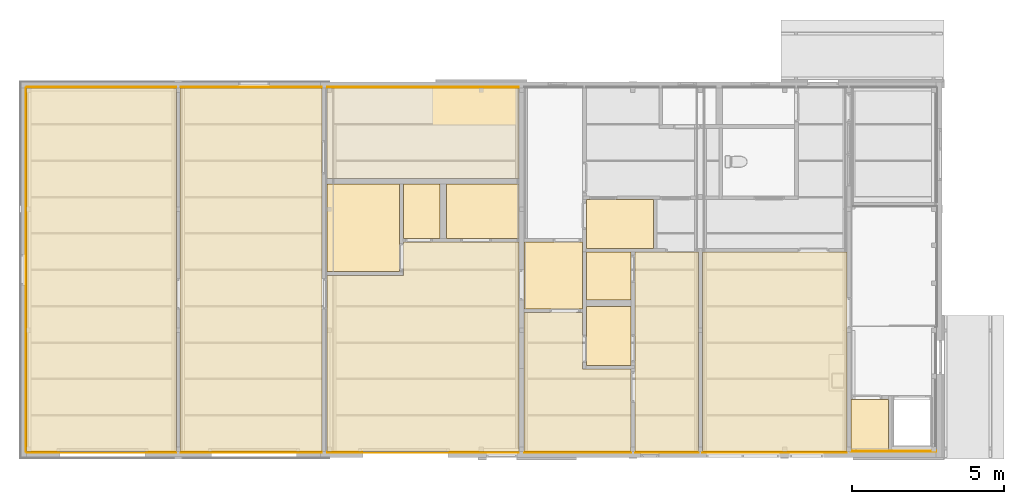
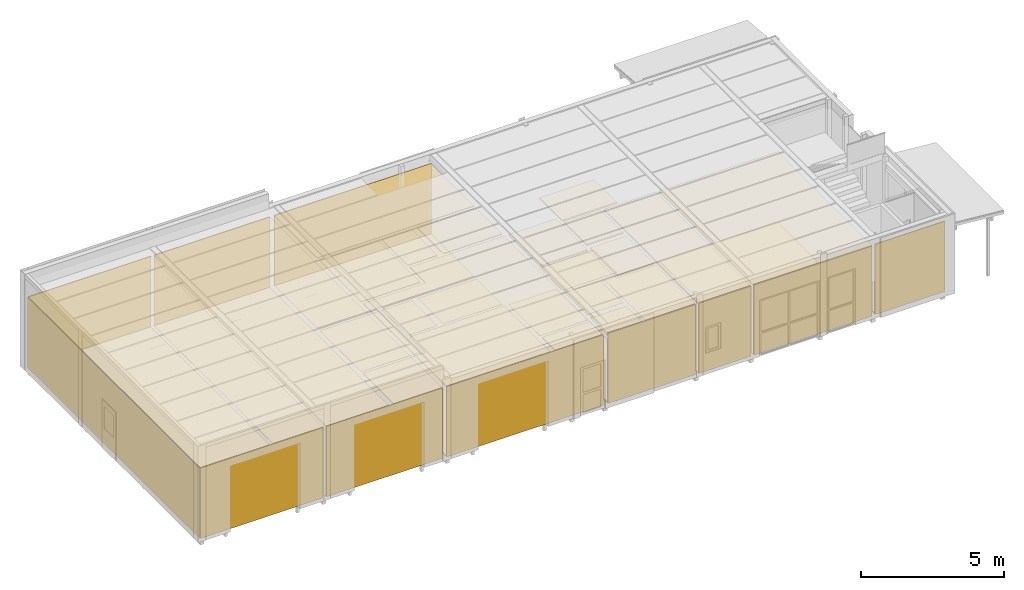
# One storey, part 39 of 45: 40 coverings.
"""IFC2X3 building model written with IfcOpenShell, lengths in millimetres."""

from ifc_helpers import new_model, entity, si_unit, converted_unit, frame, frame_2d, origin, origin_with_axes, place, context, subcontext, project, spatial, polyline, rectangle, outline, extrude, material, layer, layer_set, layer_usage, element, save


model = new_model("IFC2X3")

# Units and contexts
model_context = context("Model", 3, precision=1e-05, world=origin())
plan_context = context("Plan", 3, precision=1e-05, world=origin())
body_context = subcontext(model_context, "Body", "Model", "MODEL_VIEW")
ifc_project = project(units=[si_unit("LENGTHUNIT", "METRE", prefix="MILLI"), converted_unit("PLANEANGLEUNIT", "DEGREE", entity("IfcPlaneAngleMeasure", 0.0174532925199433), si_unit("PLANEANGLEUNIT", "RADIAN"), dimensions=[0, 0, 0, 0, 0, 0, 0]), si_unit("AREAUNIT", "SQUARE_METRE"), si_unit("VOLUMEUNIT", "CUBIC_METRE")], contexts=[model_context, plan_context])

# Building, storey, space
building_placement = place(None, origin())
building = spatial("IfcBuilding", under=ifc_project, at=building_placement, Name="HEKF Administrasjonbygg", CompositionType="ELEMENT")
storey_placement = place(building_placement, frame((0.0, 0.0, 6500.0), z_axis=(0.0, 0.0, 1.0), x_axis=(1.0, 0.0, 0.0)))
storey = spatial("IfcBuildingStorey", under=building, at=storey_placement, Name="Plan 1", CompositionType="ELEMENT", Elevation=6500.0)
space_1_placement = place(storey_placement, frame((18463.0, -6989.000000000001, 0.0), z_axis=(0.0, 0.0, 1.0), x_axis=(1.0, 0.0, 0.0)))
space_1 = spatial("IfcSpace", under=storey, at=space_1_placement, Name="114", CompositionType="ELEMENT", InteriorOrExteriorSpace="INTERNAL")

# Coverings
ifc_material_1 = material(Name="våtromsbelegg m oppkant")
ifc_layer_1 = layer(ifc_material_1, 3.0)
ifc_layer_set_1 = layer_set([ifc_layer_1])
ifc_layer_usage_1 = layer_usage(ifc_layer_set_1, "AXIS3", "POSITIVE", 0.0)
covering_1_placement = place(space_1_placement, origin_with_axes())
element("IfcCovering", 1, at=covering_1_placement, inside=space_1, material=ifc_layer_usage_1, PredefinedType="FLOORING", context=body_context, shape_type="SweptSolid", body=[
    extrude(rectangle(XDim=1474.0, YDim=1572.000000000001, at=frame_2d((-736.9999999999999, -786.0000000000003), x_axis=(-0.9999999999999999, 0.0))), frame((1474.0, 1572.000000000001, 0.0), z_axis=(0.0, 0.0, 1.0), x_axis=(1.0, 0.0, 0.0)), (0.0, 0.0, 1.0), 3.0),
])
ifc_material_2 = material(Name="støvbinding")
ifc_layer_2 = layer(ifc_material_2, 30.0)
ifc_material_3 = material(Name="systemhimling")
ifc_layer_3 = layer(ifc_material_3, 30.0)
ifc_layer_set_2 = layer_set([ifc_layer_2, ifc_layer_3])
ifc_layer_usage_2 = layer_usage(ifc_layer_set_2, "AXIS3", "POSITIVE", 0.0)
covering_2_placement = place(space_1_placement, frame((737.0, 786.0000000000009, 3000.0), z_axis=(0.0, 0.0, -1.0), x_axis=(1.0, 0.0, 0.0)))
element("IfcCovering", 2, at=covering_2_placement, inside=space_1, material=ifc_layer_usage_2, PredefinedType="CEILING", context=body_context, shape_type="SweptSolid", body=[
    extrude(rectangle(XDim=1474.0, YDim=1572.000000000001, at=frame_2d((736.9999999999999, 786.0000000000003), x_axis=(0.9999999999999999, 0.0))), frame((-737.0, -786.0, 0.0), z_axis=(0.0, 0.0, 1.0), x_axis=(1.0, 0.0, 0.0)), (0.0, 0.0, 1.0), 60.0),
])

# Space
space_2_placement = place(storey_placement, frame((18463.0, -5290.855219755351, 0.0), z_axis=(0.0, 0.0, 1.0), x_axis=(1.0, 0.0, 0.0)))
space_2 = spatial("IfcSpace", under=storey, at=space_2_placement, Name="111", CompositionType="ELEMENT", InteriorOrExteriorSpace="INTERNAL")

# Coverings
ifc_material_4 = material(Name="våtromsbelegg m oppkant")
ifc_layer_4 = layer(ifc_material_4, 3.0)
ifc_layer_set_3 = layer_set([ifc_layer_4])
ifc_layer_usage_3 = layer_usage(ifc_layer_set_3, "AXIS3", "POSITIVE", 0.0)
covering_3_placement = place(space_2_placement, origin_with_axes())
element("IfcCovering", 3, at=covering_3_placement, inside=space_2, material=ifc_layer_usage_3, PredefinedType="FLOORING", context=body_context, shape_type="SweptSolid", body=[
    extrude(rectangle(XDim=2207.205884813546, YDim=1603.855219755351, at=frame_2d((-1103.602942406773, -801.9276098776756), x_axis=(-1.0, 0.0))), frame((2207.205884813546, 1603.855219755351, 0.0), z_axis=(0.0, 0.0, 1.0), x_axis=(1.0, 0.0, 0.0)), (0.0, 0.0, 1.0), 3.0),
])
ifc_material_5 = material(Name="støvbinding")
ifc_layer_5 = layer(ifc_material_5, 30.0)
ifc_material_6 = material(Name="systemhimling")
ifc_layer_6 = layer(ifc_material_6, 30.0)
ifc_layer_set_4 = layer_set([ifc_layer_5, ifc_layer_6])
ifc_layer_usage_4 = layer_usage(ifc_layer_set_4, "AXIS3", "POSITIVE", 0.0)
covering_4_placement = place(space_2_placement, frame((1103.602942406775, 801.9276098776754, 3000.0), z_axis=(0.0, 0.0, -1.0), x_axis=(1.0, 0.0, 0.0)))
element("IfcCovering", 4, at=covering_4_placement, inside=space_2, material=ifc_layer_usage_4, PredefinedType="CEILING", context=body_context, shape_type="SweptSolid", body=[
    extrude(rectangle(XDim=2207.205884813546, YDim=1603.855219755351, at=frame_2d((1103.602942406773, 801.9276098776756), x_axis=(1.0, 0.0))), frame((-1103.602942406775, -801.9276098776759, 0.0), z_axis=(0.0, 0.0, 1.0), x_axis=(1.0, 0.0, 0.0)), (0.0, 0.0, 1.0), 60.0),
])

# Space
space_3_placement = place(storey_placement, frame((18463.0, -9150.00000000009, 0.0), z_axis=(0.0, 0.0, 1.0), x_axis=(1.0, 0.0, 0.0)))
space_3 = spatial("IfcSpace", under=storey, at=space_3_placement, Name="115", CompositionType="ELEMENT", InteriorOrExteriorSpace="INTERNAL")

# Coverings
ifc_material_7 = material(Name="våtromsbelegg m oppkant")
ifc_layer_7 = layer(ifc_material_7, 3.0)
ifc_layer_set_5 = layer_set([ifc_layer_7])
ifc_layer_usage_5 = layer_usage(ifc_layer_set_5, "AXIS3", "POSITIVE", 0.0)
covering_5_placement = place(space_3_placement, origin_with_axes())
element("IfcCovering", 5, at=covering_5_placement, inside=space_3, material=ifc_layer_usage_5, PredefinedType="FLOORING", context=body_context, shape_type="SweptSolid", body=[
    extrude(rectangle(XDim=1474.0, YDim=1937.000000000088, at=frame_2d((-736.9999999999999, -968.500000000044), x_axis=(-0.9999999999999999, 0.0))), frame((1474.0, 1937.000000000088, 0.0), z_axis=(0.0, 0.0, 1.0), x_axis=(1.0, 0.0, 0.0)), (0.0, 0.0, 1.0), 3.0),
])
ifc_material_8 = material(Name="støvbinding")
ifc_layer_8 = layer(ifc_material_8, 30.0)
ifc_material_9 = material(Name="systemhimling")
ifc_layer_9 = layer(ifc_material_9, 30.0)
ifc_layer_set_6 = layer_set([ifc_layer_8, ifc_layer_9])
ifc_layer_usage_6 = layer_usage(ifc_layer_set_6, "AXIS3", "POSITIVE", 0.0)
covering_6_placement = place(space_3_placement, frame((737.0, 968.5000000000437, 3000.0), z_axis=(0.0, 0.0, -1.0), x_axis=(1.0, 0.0, 0.0)))
element("IfcCovering", 6, at=covering_6_placement, inside=space_3, material=ifc_layer_usage_6, PredefinedType="CEILING", context=body_context, shape_type="SweptSolid", body=[
    extrude(rectangle(XDim=1474.0, YDim=1937.000000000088, at=frame_2d((736.9999999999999, 968.500000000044), x_axis=(0.9999999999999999, 0.0))), frame((-737.0, -968.5000000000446, 0.0), z_axis=(0.0, 0.0, 1.0), x_axis=(1.0, 0.0, 0.0)), (0.0, 0.0, 1.0), 60.0),
])

# Space
space_4_placement = place(storey_placement, frame((20063.0, -12000.0, 0.0), z_axis=(0.0, 0.0, 1.0), x_axis=(1.0, 0.0, 0.0)))
space_4 = spatial("IfcSpace", under=storey, at=space_4_placement, Name="116", CompositionType="ELEMENT", InteriorOrExteriorSpace="INTERNAL")

# Coverings
ifc_material_10 = material(Name="Ubehandlet SW")
ifc_layer_10 = layer(ifc_material_10, 30.0)
ifc_layer_set_7 = layer_set([ifc_layer_10])
ifc_layer_usage_7 = layer_usage(ifc_layer_set_7, "AXIS3", "POSITIVE", 0.0)
covering_7_placement = place(space_4_placement, frame((2099.268403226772, 0.0, 0.0), z_axis=(0.0, 0.0, 1.0), x_axis=(-0.9999999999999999, 7.843219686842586e-15, 0.0)))
element("IfcCovering", 7, at=covering_7_placement, inside=space_4, material=ifc_layer_usage_7, PredefinedType="CLADDING", context=body_context, shape_type="SweptSolid", body=[
    extrude(rectangle(XDim=3000.0, YDim=2087.268403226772, at=frame_2d((-1043.634201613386, 1500.0), x_axis=(0.0, 1.0))), frame((2087.268403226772, 0.0, 3000.0), z_axis=(0.0, 1.0, 0.0), x_axis=(1.0, 0.0, 0.0)), (0.0, 0.0, 1.0), 30.0),
])
ifc_material_11 = material(Name="våtromsbelegg m oppkant")
ifc_layer_11 = layer(ifc_material_11, 3.0)
ifc_layer_set_8 = layer_set([ifc_layer_11])
ifc_layer_usage_8 = layer_usage(ifc_layer_set_8, "AXIS3", "POSITIVE", 0.0)
covering_8_placement = place(space_4_placement, origin_with_axes())
element("IfcCovering", 8, at=covering_8_placement, inside=space_4, material=ifc_layer_usage_8, PredefinedType="FLOORING", context=body_context, shape_type="SweptSolid", body=[
    extrude(rectangle(XDim=2099.268403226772, YDim=6583.000000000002, at=frame_2d((-1049.634201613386, -3291.500000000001), x_axis=(-1.0, 0.0))), frame((2099.268403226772, 6583.000000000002, 0.0), z_axis=(0.0, 0.0, 1.0), x_axis=(1.0, 0.0, 0.0)), (0.0, 0.0, 1.0), 3.0),
])
ifc_material_12 = material(Name="støvbinding")
ifc_layer_12 = layer(ifc_material_12, 30.0)
ifc_material_13 = material(Name="systemhimling")
ifc_layer_13 = layer(ifc_material_13, 30.0)
ifc_layer_set_9 = layer_set([ifc_layer_12, ifc_layer_13])
ifc_layer_usage_9 = layer_usage(ifc_layer_set_9, "AXIS3", "POSITIVE", 0.0)
covering_9_placement = place(space_4_placement, frame((1049.634201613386, 3291.500000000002, 3000.0), z_axis=(0.0, 0.0, -1.0), x_axis=(1.0, 0.0, 0.0)))
element("IfcCovering", 9, at=covering_9_placement, inside=space_4, material=ifc_layer_usage_9, PredefinedType="CEILING", context=body_context, shape_type="SweptSolid", body=[
    extrude(rectangle(XDim=2099.268403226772, YDim=6583.000000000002, at=frame_2d((1049.634201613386, 3291.500000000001), x_axis=(1.0, 0.0))), frame((-1049.634201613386, -3291.5, 0.0), z_axis=(0.0, 0.0, 1.0), x_axis=(1.0, 0.0, 0.0)), (0.0, 0.0, 1.0), 60.0),
])

# Space
space_5_placement = place(storey_placement, frame((16413.0, -12000.0, 0.0), z_axis=(0.0, 0.0, 1.0), x_axis=(1.0, 0.0, 0.0)))
space_5 = spatial("IfcSpace", under=storey, at=space_5_placement, Name="117", CompositionType="ELEMENT", InteriorOrExteriorSpace="INTERNAL")

# Coverings
ifc_material_14 = material(Name="Ubehandlet SW")
ifc_layer_14 = layer(ifc_material_14, 30.0)
ifc_layer_set_10 = layer_set([ifc_layer_14])
ifc_layer_usage_10 = layer_usage(ifc_layer_set_10, "AXIS3", "POSITIVE", 0.0)
covering_10_placement = place(space_5_placement, frame((3524.0, 0.0, 0.0), z_axis=(0.0, 0.0, 1.0), x_axis=(-1.0, 0.0, 0.0)))
element("IfcCovering", 10, at=covering_10_placement, inside=space_5, material=ifc_layer_usage_10, PredefinedType="CLADDING", context=body_context, shape_type="SweptSolid", body=[
    extrude(rectangle(XDim=3000.0, YDim=3524.0, at=frame_2d((-1762.0, 1500.0), x_axis=(0.0, 1.0))), frame((3524.0, 0.0, 3000.0), z_axis=(0.0, 1.0, 0.0), x_axis=(1.0, 0.0, 0.0)), (0.0, 0.0, 1.0), 30.0),
])
ifc_material_15 = material(Name="våtromsbelegg m oppkant")
ifc_layer_15 = layer(ifc_material_15, 30.0)
ifc_layer_set_11 = layer_set([ifc_layer_15])
ifc_layer_usage_11 = layer_usage(ifc_layer_set_11, "AXIS3", "POSITIVE", 0.0)
covering_11_placement = place(space_5_placement, origin_with_axes())
element("IfcCovering", 11, at=covering_11_placement, inside=space_5, material=ifc_layer_usage_11, PredefinedType="FLOORING", context=body_context, shape_type="SweptSolid", body=[
    extrude(outline(polyline([(1924.0, 4587.000000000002), (0.0, 4587.000000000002), (0.0, 0.0), (3524.0, 0.0), (3524.0, 2723.999999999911), (1924.0, 2723.999999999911), (1924.0, 4587.000000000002)])), origin_with_axes(), (0.0, 0.0, 1.0), 30.0),
])
ifc_material_16 = material(Name="støvbinding")
ifc_layer_16 = layer(ifc_material_16, 30.0)
ifc_material_17 = material(Name="systemhimling")
ifc_layer_17 = layer(ifc_material_17, 30.0)
ifc_layer_set_12 = layer_set([ifc_layer_16, ifc_layer_17])
ifc_layer_usage_12 = layer_usage(ifc_layer_set_12, "AXIS3", "POSITIVE", 0.0)
covering_12_placement = place(space_5_placement, frame((1816.0, 2436.999999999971, 3000.0), z_axis=(0.0, 0.0, -1.0), x_axis=(1.0, 0.0, 0.0)))
element("IfcCovering", 12, at=covering_12_placement, inside=space_5, material=ifc_layer_usage_12, PredefinedType="CEILING", context=body_context, shape_type="SweptSolid", body=[
    extrude(outline(polyline([(-1816.0, -2150.000000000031), (108.0, -2150.000000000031), (108.0, -286.99999999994), (1708.0, -286.99999999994), (1708.0, 2436.999999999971), (-1816.0, 2436.999999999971), (-1816.0, -2150.000000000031)])), origin_with_axes(), (0.0, 0.0, 1.0), 60.0),
])

# Space
space_6_placement = place(storey_placement, frame((16413.0, -7286.999999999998, 0.0), z_axis=(0.0, 0.0, 1.0), x_axis=(1.0, 0.0, 0.0)))
space_6 = spatial("IfcSpace", under=storey, at=space_6_placement, Name="113", CompositionType="ELEMENT", InteriorOrExteriorSpace="INTERNAL")

# Coverings
ifc_material_18 = material(Name="Våtromsbelegg")
ifc_layer_18 = layer(ifc_material_18, 3.0)
ifc_layer_set_13 = layer_set([ifc_layer_18])
ifc_layer_usage_13 = layer_usage(ifc_layer_set_13, "AXIS3", "POSITIVE", 0.0)
covering_13_placement = place(space_6_placement, origin_with_axes())
element("IfcCovering", 13, at=covering_13_placement, inside=space_6, material=ifc_layer_usage_13, PredefinedType="FLOORING", context=body_context, shape_type="SweptSolid", body=[
    extrude(rectangle(XDim=1924.0, YDim=2199.999999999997, at=frame_2d((-962.0, -1099.999999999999), x_axis=(-1.0, 0.0))), frame((1924.0, 2199.999999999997, 0.0), z_axis=(0.0, 0.0, 1.0), x_axis=(1.0, 0.0, 0.0)), (0.0, 0.0, 1.0), 3.0),
])
ifc_material_19 = material(Name="Støvbinding")
ifc_layer_19 = layer(ifc_material_19, 30.0)
ifc_material_20 = material(Name="Systemhimling")
ifc_layer_20 = layer(ifc_material_20, 30.0)
ifc_layer_set_14 = layer_set([ifc_layer_19, ifc_layer_20])
ifc_layer_usage_14 = layer_usage(ifc_layer_set_14, "AXIS3", "POSITIVE", 0.0)
covering_14_placement = place(space_6_placement, frame((962.0, 1099.999999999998, 3000.0), z_axis=(0.0, 0.0, -1.0), x_axis=(1.0, 0.0, 0.0)))
element("IfcCovering", 14, at=covering_14_placement, inside=space_6, material=ifc_layer_usage_14, PredefinedType="CEILING", context=body_context, shape_type="SweptSolid", body=[
    extrude(rectangle(XDim=1924.0, YDim=2199.999999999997, at=frame_2d((962.0, 1099.999999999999), x_axis=(1.0, 0.0))), frame((-962.0, -1099.999999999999, 0.0), z_axis=(0.0, 0.0, 1.0), x_axis=(1.0, 0.0, 0.0)), (0.0, 0.0, 1.0), 60.0),
])

# Space
space_7_placement = place(storey_placement, frame((9913.0, -2987.0, 0.0), z_axis=(0.0, 0.0, 1.0), x_axis=(1.0, 0.0, 0.0)))
space_7 = spatial("IfcSpace", under=storey, at=space_7_placement, Name="120", CompositionType="ELEMENT", InteriorOrExteriorSpace="INTERNAL")

# Coverings
ifc_material_21 = material(Name="Ubehandlet SW")
ifc_layer_21 = layer(ifc_material_21, 30.0)
ifc_layer_set_15 = layer_set([ifc_layer_21])
ifc_layer_usage_15 = layer_usage(ifc_layer_set_15, "AXIS3", "POSITIVE", 0.0)
covering_15_placement = place(space_7_placement, frame((0.0, 2987.000000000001, 0.0), z_axis=(0.0, 0.0, 1.0), x_axis=(1.0, 0.0, 0.0)))
element("IfcCovering", 15, at=covering_15_placement, inside=space_7, material=ifc_layer_usage_15, PredefinedType="CLADDING", context=body_context, shape_type="SweptSolid", body=[
    extrude(rectangle(XDim=3000.0, YDim=6324.0, at=frame_2d((-3162.0, 1500.0), x_axis=(0.0, 1.0))), frame((6324.0, 0.0, 3000.0), z_axis=(0.0, 1.0, 0.0), x_axis=(1.0, 0.0, 0.0)), (0.0, 0.0, 1.0), 30.0),
])
ifc_material_22 = material(Name="Golvmaling")
ifc_layer_22 = layer(ifc_material_22, 3.0)
ifc_layer_set_16 = layer_set([ifc_layer_22])
ifc_layer_usage_16 = layer_usage(ifc_layer_set_16, "AXIS3", "POSITIVE", 0.0)
covering_16_placement = place(space_7_placement, origin_with_axes())
element("IfcCovering", 16, at=covering_16_placement, inside=space_7, material=ifc_layer_usage_16, PredefinedType="FLOORING", context=body_context, shape_type="SweptSolid", body=[
    extrude(rectangle(XDim=6324.0, YDim=2987.000000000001, at=frame_2d((-3162.0, -1493.5), x_axis=(-1.0, 0.0))), frame((6324.0, 2987.000000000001, 0.0), z_axis=(0.0, 0.0, 1.0), x_axis=(1.0, 0.0, 0.0)), (0.0, 0.0, 1.0), 3.0),
])
ifc_material_23 = material(Name="Støvbinding x2")
ifc_layer_23 = layer(ifc_material_23, 30.0)
ifc_layer_set_17 = layer_set([ifc_layer_23])
ifc_layer_usage_17 = layer_usage(ifc_layer_set_17, "AXIS3", "POSITIVE", 0.0)
covering_17_placement = place(space_7_placement, frame((3162.0, 1493.5, 3000.0), z_axis=(0.0, 0.0, -1.0), x_axis=(1.0, 0.0, 0.0)))
element("IfcCovering", 17, at=covering_17_placement, inside=space_7, material=ifc_layer_usage_17, PredefinedType="CEILING", context=body_context, shape_type="SweptSolid", body=[
    extrude(rectangle(XDim=6324.0, YDim=2987.0, at=frame_2d((3162.0, 1493.5), x_axis=(1.0, 0.0))), frame((-3162.0, -1493.5, 0.0), z_axis=(0.0, 0.0, 1.0), x_axis=(1.0, 0.0, 0.0)), (0.0, 0.0, 1.0), 30.0),
])

# Space
space_8_placement = place(storey_placement, frame((13856.83620340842, -4961.0, 0.0), z_axis=(0.0, 0.0, 1.0), x_axis=(1.0, 0.0, 0.0)))
space_8 = spatial("IfcSpace", under=storey, at=space_8_placement, Name="119", CompositionType="ELEMENT", InteriorOrExteriorSpace="INTERNAL")

# Coverings
ifc_material_24 = material(Name="Våtromsbelegg")
ifc_layer_24 = layer(ifc_material_24, 3.0)
ifc_layer_set_18 = layer_set([ifc_layer_24])
ifc_layer_usage_18 = layer_usage(ifc_layer_set_18, "AXIS3", "POSITIVE", 0.0)
covering_18_placement = place(space_8_placement, origin_with_axes())
element("IfcCovering", 18, at=covering_18_placement, inside=space_8, material=ifc_layer_usage_18, PredefinedType="FLOORING", context=body_context, shape_type="SweptSolid", body=[
    extrude(rectangle(XDim=2380.163796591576, YDim=1798.0, at=frame_2d((-1190.081898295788, -899.0), x_axis=(-1.0, 0.0))), frame((2380.163796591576, 1798.0, 0.0), z_axis=(0.0, 0.0, 1.0), x_axis=(1.0, 0.0, 0.0)), (0.0, 0.0, 1.0), 3.0),
])
ifc_material_25 = material(Name="Støvbinding x2")
ifc_layer_25 = layer(ifc_material_25, 30.0)
ifc_layer_set_19 = layer_set([ifc_layer_25])
ifc_layer_usage_19 = layer_usage(ifc_layer_set_19, "AXIS3", "POSITIVE", 0.0)
covering_19_placement = place(space_8_placement, frame((1190.08189829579, 899.0, 3000.0), z_axis=(0.0, 0.0, -1.0), x_axis=(1.0, 0.0, 0.0)))
element("IfcCovering", 19, at=covering_19_placement, inside=space_8, material=ifc_layer_usage_19, PredefinedType="CEILING", context=body_context, shape_type="SweptSolid", body=[
    extrude(rectangle(XDim=2380.163796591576, YDim=1798.0, at=frame_2d((1190.081898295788, 899.0), x_axis=(1.0, 0.0))), frame((-1190.08189829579, -899.0, 0.0), z_axis=(0.0, 0.0, 1.0), x_axis=(1.0, 0.0, 0.0)), (0.0, 0.0, 1.0), 30.0),
])

# Space
space_9_placement = place(storey_placement, frame((12427.88604435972, -4960.999999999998, 0.0), z_axis=(0.0, 0.0, 1.0), x_axis=(1.0, 0.0, 0.0)))
space_9 = spatial("IfcSpace", under=storey, at=space_9_placement, Name="121", CompositionType="ELEMENT", InteriorOrExteriorSpace="INTERNAL")

# Coverings
ifc_material_26 = material(Name="Våtromsbelegg")
ifc_layer_26 = layer(ifc_material_26, 3.0)
ifc_layer_set_20 = layer_set([ifc_layer_26])
ifc_layer_usage_20 = layer_usage(ifc_layer_set_20, "AXIS3", "POSITIVE", 0.0)
covering_20_placement = place(space_9_placement, origin_with_axes())
element("IfcCovering", 20, at=covering_20_placement, inside=space_9, material=ifc_layer_usage_20, PredefinedType="FLOORING", context=body_context, shape_type="SweptSolid", body=[
    extrude(rectangle(XDim=1204.950159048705, YDim=1797.999999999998, at=frame_2d((-602.4750795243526, -898.9999999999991), x_axis=(-1.0, 0.0))), frame((1204.950159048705, 1797.999999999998, 0.0), z_axis=(0.0, 0.0, 1.0), x_axis=(1.0, 0.0, 0.0)), (0.0, 0.0, 1.0), 3.0),
])
ifc_material_27 = material(Name="Støvbinding x2")
ifc_layer_27 = layer(ifc_material_27, 30.0)
ifc_layer_set_21 = layer_set([ifc_layer_27])
ifc_layer_usage_21 = layer_usage(ifc_layer_set_21, "AXIS3", "POSITIVE", 0.0)
covering_21_placement = place(space_9_placement, frame((602.4750795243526, 898.9999999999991, 3000.0), z_axis=(0.0, 0.0, -1.0), x_axis=(1.0, 0.0, 0.0)))
element("IfcCovering", 21, at=covering_21_placement, inside=space_9, material=ifc_layer_usage_21, PredefinedType="CEILING", context=body_context, shape_type="SweptSolid", body=[
    extrude(rectangle(XDim=1204.950159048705, YDim=1797.999999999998, at=frame_2d((602.4750795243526, 898.9999999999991), x_axis=(1.0, 0.0))), frame((-602.4750795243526, -898.9999999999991, 0.0), z_axis=(0.0, 0.0, 1.0), x_axis=(1.0, 0.0, 0.0)), (0.0, 0.0, 1.0), 30.0),
])

# Space
space_10_placement = place(storey_placement, frame((9913.0, -6060.999999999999, 0.0), z_axis=(0.0, 0.0, 1.0), x_axis=(1.0, 0.0, 0.0)))
space_10 = spatial("IfcSpace", under=storey, at=space_10_placement, Name="122", CompositionType="ELEMENT", InteriorOrExteriorSpace="INTERNAL")

# Coverings
ifc_material_28 = material(Name="Golvmaling")
ifc_layer_28 = layer(ifc_material_28, 3.0)
ifc_layer_set_22 = layer_set([ifc_layer_28])
ifc_layer_usage_22 = layer_usage(ifc_layer_set_22, "AXIS3", "POSITIVE", 0.0)
covering_22_placement = place(space_10_placement, origin_with_axes())
element("IfcCovering", 22, at=covering_22_placement, inside=space_10, material=ifc_layer_usage_22, PredefinedType="FLOORING", context=body_context, shape_type="SweptSolid", body=[
    extrude(rectangle(XDim=2388.886044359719, YDim=2897.999999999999, at=frame_2d((-1194.443022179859, -1449.0), x_axis=(-1.0, 0.0))), frame((2388.886044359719, 2897.999999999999, 0.0), z_axis=(0.0, 0.0, 1.0), x_axis=(1.0, 0.0, 0.0)), (0.0, 0.0, 1.0), 3.0),
])
ifc_material_29 = material(Name="Støvbinding x2")
ifc_layer_29 = layer(ifc_material_29, 30.0)
ifc_layer_set_23 = layer_set([ifc_layer_29])
ifc_layer_usage_23 = layer_usage(ifc_layer_set_23, "AXIS3", "POSITIVE", 0.0)
covering_23_placement = place(space_10_placement, frame((1194.443022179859, 1448.999999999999, 3000.0), z_axis=(0.0, 0.0, -1.0), x_axis=(1.0, 0.0, 0.0)))
element("IfcCovering", 23, at=covering_23_placement, inside=space_10, material=ifc_layer_usage_23, PredefinedType="CEILING", context=body_context, shape_type="SweptSolid", body=[
    extrude(rectangle(XDim=2388.886044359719, YDim=2897.999999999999, at=frame_2d((1194.443022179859, 1449.0), x_axis=(1.0, 0.0))), frame((-1194.443022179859, -1449.0, 0.0), z_axis=(0.0, 0.0, 1.0), x_axis=(1.0, 0.0, 0.0)), (0.0, 0.0, 1.0), 30.0),
])

# Space
space_11_placement = place(storey_placement, frame((5063.0, -12000.0, 0.0), z_axis=(0.0, 0.0, 1.0), x_axis=(1.0, 0.0, 0.0)))
space_11 = spatial("IfcSpace", under=storey, at=space_11_placement, Name="123", CompositionType="ELEMENT", InteriorOrExteriorSpace="INTERNAL")

# Coverings
ifc_material_30 = material(Name="Ubehandlet SW")
ifc_layer_30 = layer(ifc_material_30, 30.0)
ifc_layer_set_24 = layer_set([ifc_layer_30])
ifc_layer_usage_24 = layer_usage(ifc_layer_set_24, "AXIS3", "POSITIVE", 0.0)
covering_24_placement = place(space_11_placement, frame((4674.0, 0.0, 0.0), z_axis=(0.0, 0.0, 1.0), x_axis=(-1.0, 0.0, 0.0)))
element("IfcCovering", 24, at=covering_24_placement, inside=space_11, material=ifc_layer_usage_24, PredefinedType="CLADDING", context=body_context, shape_type="SweptSolid", body=[
    extrude(rectangle(XDim=3000.0, YDim=4662.0, at=frame_2d((-2331.0, 1500.0), x_axis=(0.0, 1.0))), frame((4662.0, 0.0, 3000.0), z_axis=(0.0, 1.0, 0.0), x_axis=(1.0, 0.0, 0.0)), (0.0, 0.0, 1.0), 30.0),
])
ifc_material_31 = material(Name="Ubehandlet SW")
ifc_layer_31 = layer(ifc_material_31, 30.0)
ifc_layer_set_25 = layer_set([ifc_layer_31])
ifc_layer_usage_25 = layer_usage(ifc_layer_set_25, "AXIS3", "POSITIVE", 0.0)
covering_25_placement = place(space_11_placement, frame((12.0, 12000.0, 0.0), z_axis=(0.0, 0.0, 1.0), x_axis=(1.0, 2.552893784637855e-17, 0.0)))
element("IfcCovering", 25, at=covering_25_placement, inside=space_11, material=ifc_layer_usage_25, PredefinedType="CLADDING", context=body_context, shape_type="SweptSolid", body=[
    extrude(rectangle(XDim=3000.0, YDim=4662.0, at=frame_2d((-2331.0, 1500.0), x_axis=(0.0, 1.0))), frame((4662.0, 0.0, 3000.0), z_axis=(0.0, 1.0, 0.0), x_axis=(1.0, 0.0, 0.0)), (0.0, 0.0, 1.0), 30.0),
])
ifc_material_32 = material(Name="Golvmaling")
ifc_layer_32 = layer(ifc_material_32, 3.0)
ifc_layer_set_26 = layer_set([ifc_layer_32])
ifc_layer_usage_26 = layer_usage(ifc_layer_set_26, "AXIS3", "POSITIVE", 0.0)
covering_26_placement = place(space_11_placement, origin_with_axes())
element("IfcCovering", 26, at=covering_26_placement, inside=space_11, material=ifc_layer_usage_26, PredefinedType="FLOORING", context=body_context, shape_type="SweptSolid", body=[
    extrude(outline(polyline([(4674.0, 12000.0), (0.0, 12000.0), (0.6166666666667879, 0.0), (4674.0, 0.0), (4674.0, 12000.0)])), origin_with_axes(), (0.0, 0.0, 1.0), 3.0),
])
ifc_material_33 = material(Name="Støvbinding x2")
ifc_layer_33 = layer(ifc_material_33, 30.0)
ifc_layer_set_27 = layer_set([ifc_layer_33])
ifc_layer_usage_27 = layer_usage(ifc_layer_set_27, "AXIS3", "POSITIVE", 0.0)
covering_27_placement = place(space_11_placement, frame((2337.154166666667, 6000.0, 3000.0), z_axis=(0.0, 0.0, -1.0), x_axis=(1.0, 0.0, 0.0)))
element("IfcCovering", 27, at=covering_27_placement, inside=space_11, material=ifc_layer_usage_27, PredefinedType="CEILING", context=body_context, shape_type="SweptSolid", body=[
    extrude(outline(polyline([(-2337.154166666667, -6000.0), (2336.845833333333, -6000.0), (2336.845833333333, 6000.0), (-2336.5375, 6000.0), (-2337.154166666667, -6000.0)])), origin_with_axes(), (0.0, 0.0, 1.0), 30.0),
])

# Space
space_12_placement = place(storey_placement, frame((1.818989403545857e-12, -12000.0, 0.0), z_axis=(0.0, 0.0, 1.0), x_axis=(1.0, 0.0, 0.0)))
space_12 = spatial("IfcSpace", under=storey, at=space_12_placement, Name="124", CompositionType="ELEMENT", InteriorOrExteriorSpace="INTERNAL")

# Coverings
ifc_material_34 = material(Name="Ubehandlet SW")
ifc_layer_34 = layer(ifc_material_34, 30.0)
ifc_layer_set_28 = layer_set([ifc_layer_34])
ifc_layer_usage_28 = layer_usage(ifc_layer_set_28, "AXIS3", "POSITIVE", 0.0)
covering_28_placement = place(space_12_placement, frame((0.0, 12000.0, 0.0), z_axis=(0.0, 0.0, 1.0), x_axis=(1.0, 1.15137571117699e-16, 0.0)))
element("IfcCovering", 28, at=covering_28_placement, inside=space_12, material=ifc_layer_usage_28, PredefinedType="CLADDING", context=body_context, shape_type="SweptSolid", body=[
    extrude(rectangle(XDim=3000.0, YDim=4937.0, at=frame_2d((-2468.5, 1500.0), x_axis=(0.0, 1.0))), frame((4937.0, 0.0, 3000.0), z_axis=(0.0, 1.0, 0.0), x_axis=(1.0, 0.0, 0.0)), (0.0, 0.0, 1.0), 30.0),
])
ifc_material_35 = material(Name="Ubehandlet SW")
ifc_layer_35 = layer(ifc_material_35, 30.0)
ifc_layer_set_29 = layer_set([ifc_layer_35])
ifc_layer_usage_29 = layer_usage(ifc_layer_set_29, "AXIS3", "POSITIVE", 0.0)
covering_29_placement = place(space_12_placement, frame((4937.0, 0.0, 0.0), z_axis=(0.0, 0.0, 1.0), x_axis=(-0.9999999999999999, 2.947521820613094e-15, 0.0)))
element("IfcCovering", 29, at=covering_29_placement, inside=space_12, material=ifc_layer_usage_29, PredefinedType="CLADDING", context=body_context, shape_type="SweptSolid", body=[
    extrude(rectangle(XDim=3000.0, YDim=4937.000000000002, at=frame_2d((-2468.500000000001, 1500.0), x_axis=(0.0, 1.0))), frame((4937.000000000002, 0.0, 3000.0), z_axis=(0.0, 1.0, 0.0), x_axis=(1.0, 0.0, 0.0)), (0.0, 0.0, 1.0), 30.0),
])
ifc_material_36 = material(Name="Ubehandlet SW")
ifc_layer_36 = layer(ifc_material_36, 30.0)
ifc_layer_set_30 = layer_set([ifc_layer_36])
ifc_layer_usage_30 = layer_usage(ifc_layer_set_30, "AXIS3", "POSITIVE", 0.0)
covering_30_placement = place(space_12_placement, frame((-1.818989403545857e-12, 1.455191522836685e-11, 0.0), z_axis=(0.0, 0.0, 1.0), x_axis=(1.515824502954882e-16, 1.0, 0.0)))
element("IfcCovering", 30, at=covering_30_placement, inside=space_12, material=ifc_layer_usage_30, PredefinedType="CLADDING", context=body_context, shape_type="SweptSolid", body=[
    extrude(rectangle(XDim=3000.0, YDim=11999.99999999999, at=frame_2d((-5999.999999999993, 1500.0), x_axis=(0.0, 1.0))), frame((11999.99999999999, 0.0, 3000.0), z_axis=(0.0, 1.0, 0.0), x_axis=(1.0, 0.0, 0.0)), (0.0, 0.0, 1.0), 30.0),
])
ifc_material_37 = material(Name="Golvmaling")
ifc_layer_37 = layer(ifc_material_37, 3.0)
ifc_layer_set_31 = layer_set([ifc_layer_37])
ifc_layer_usage_31 = layer_usage(ifc_layer_set_31, "AXIS3", "POSITIVE", 0.0)
covering_31_placement = place(space_12_placement, origin_with_axes())
element("IfcCovering", 31, at=covering_31_placement, inside=space_12, material=ifc_layer_usage_31, PredefinedType="FLOORING", context=body_context, shape_type="SweptSolid", body=[
    extrude(outline(polyline([(4937.0, 12000.0), (0.0, 12000.0), (0.6166666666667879, 0.0), (4937.0, 0.0), (4937.0, 12000.0)])), origin_with_axes(), (0.0, 0.0, 1.0), 3.0),
])
ifc_material_38 = material(Name="Støvbinding x2")
ifc_layer_38 = layer(ifc_material_38, 30.0)
ifc_layer_set_32 = layer_set([ifc_layer_38])
ifc_layer_usage_32 = layer_usage(ifc_layer_set_32, "AXIS3", "POSITIVE", 0.0)
covering_32_placement = place(space_12_placement, frame((2468.654166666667, 6000.0, 3000.0), z_axis=(0.0, 0.0, -1.0), x_axis=(1.0, 0.0, 0.0)))
element("IfcCovering", 32, at=covering_32_placement, inside=space_12, material=ifc_layer_usage_32, PredefinedType="CEILING", context=body_context, shape_type="SweptSolid", body=[
    extrude(outline(polyline([(-2468.654166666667, -6000.0), (2468.345833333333, -6000.000000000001), (2468.345833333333, 6000.0), (-2468.0375, 6000.0), (-2468.654166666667, -6000.0)])), origin_with_axes(), (0.0, 0.0, 1.0), 30.0),
])

# Space
space_13_placement = place(storey_placement, frame((9912.999999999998, -12000.0, 0.0), z_axis=(0.0, 0.0, 1.0), x_axis=(1.0, 0.0, 0.0)))
space_13 = spatial("IfcSpace", under=storey, at=space_13_placement, Name="118", CompositionType="ELEMENT", InteriorOrExteriorSpace="INTERNAL")

# Coverings
ifc_material_39 = material(Name="Ubehandlet SW")
ifc_layer_39 = layer(ifc_material_39, 30.0)
ifc_layer_set_33 = layer_set([ifc_layer_39])
ifc_layer_usage_33 = layer_usage(ifc_layer_set_33, "AXIS3", "POSITIVE", 0.0)
covering_33_placement = place(space_13_placement, frame((6324.000000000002, 0.0, 0.0), z_axis=(0.0, 0.0, 1.0), x_axis=(-1.0, 0.0, 0.0)))
element("IfcCovering", 33, at=covering_33_placement, inside=space_13, material=ifc_layer_usage_33, PredefinedType="CLADDING", context=body_context, shape_type="SweptSolid", body=[
    extrude(rectangle(XDim=3000.0, YDim=6324.000000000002, at=frame_2d((-3162.000000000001, 1500.0), x_axis=(0.0, 1.0))), frame((6324.000000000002, 0.0, 3000.0), z_axis=(0.0, 1.0, 0.0), x_axis=(1.0, 0.0, 0.0)), (0.0, 0.0, 1.0), 30.0),
])
ifc_material_40 = material(Name="Golvmaling")
ifc_layer_40 = layer(ifc_material_40, 30.0)
ifc_layer_set_34 = layer_set([ifc_layer_40])
ifc_layer_usage_34 = layer_usage(ifc_layer_set_34, "AXIS3", "POSITIVE", 0.0)
covering_34_placement = place(space_13_placement, frame((-1.818989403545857e-12, 0.0, 0.0), z_axis=(0.0, 0.0, 1.0), x_axis=(1.0, 0.0, 0.0)))
element("IfcCovering", 34, at=covering_34_placement, inside=space_13, material=ifc_layer_usage_34, PredefinedType="FLOORING", context=body_context, shape_type="SweptSolid", body=[
    extrude(outline(polyline([(2514.886044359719, 5813.000000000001), (0.0, 5813.000000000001), (-1.818989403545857e-12, 0.0), (6324.0, 0.0), (6324.0, 6913.0), (2514.886044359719, 6913.000000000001), (2514.886044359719, 5813.000000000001)])), origin_with_axes(), (0.0, 0.0, 1.0), 30.0),
])
ifc_material_41 = material(Name="Støvbinding x2")
ifc_layer_41 = layer(ifc_material_41, 30.0)
ifc_layer_set_35 = layer_set([ifc_layer_41])
ifc_layer_usage_35 = layer_usage(ifc_layer_set_35, "AXIS3", "POSITIVE", 0.0)
covering_35_placement = place(space_13_placement, frame((2946.295348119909, 4242.0, 3000.0), z_axis=(0.0, 0.0, -1.0), x_axis=(1.0, 0.0, 0.0)))
element("IfcCovering", 35, at=covering_35_placement, inside=space_13, material=ifc_layer_usage_35, PredefinedType="CEILING", context=body_context, shape_type="SweptSolid", body=[
    extrude(outline(polyline([(-2946.295348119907, -1571.000000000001), (-431.4093037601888, -1571.000000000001), (-431.4093037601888, -2671.000000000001), (3377.704651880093, -2671.0), (3377.704651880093, 4242.0), (-2946.295348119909, 4242.0), (-2946.295348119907, -1571.000000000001)])), origin_with_axes(), (0.0, 0.0, 1.0), 30.0),
])

# Space
space_14_placement = place(storey_placement, frame((22288.26840322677, -12000.0, 0.0), z_axis=(0.0, 0.0, 1.0), x_axis=(1.0, 0.0, 0.0)))
space_14 = spatial("IfcSpace", under=storey, at=space_14_placement, Name="105", CompositionType="ELEMENT", InteriorOrExteriorSpace="INTERNAL")

# Coverings
ifc_material_42 = material(Name="Ubehandlet SW")
ifc_layer_42 = layer(ifc_material_42, 30.0)
ifc_layer_set_36 = layer_set([ifc_layer_42])
ifc_layer_usage_36 = layer_usage(ifc_layer_set_36, "AXIS3", "POSITIVE", 0.0)
covering_36_placement = place(space_14_placement, frame((4761.268403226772, 1.818989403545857e-12, 0.0), z_axis=(0.0, 0.0, 1.0), x_axis=(-0.9999999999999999, -3.820388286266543e-16, 0.0)))
element("IfcCovering", 36, at=covering_36_placement, inside=space_14, material=ifc_layer_usage_36, PredefinedType="CLADDING", context=body_context, shape_type="SweptSolid", body=[
    extrude(rectangle(XDim=3000.0, YDim=4761.268403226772, at=frame_2d((-2380.634201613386, 1500.0), x_axis=(0.0, 1.0))), frame((4761.268403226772, 0.0, 3000.0), z_axis=(0.0, 1.0, 0.0), x_axis=(1.0, 0.0, 0.0)), (0.0, 0.0, 1.0), 30.0),
])
ifc_material_43 = material(Name="Banebelegg, homogent")
ifc_layer_43 = layer(ifc_material_43, 3.0)
ifc_layer_set_37 = layer_set([ifc_layer_43])
ifc_layer_usage_37 = layer_usage(ifc_layer_set_37, "AXIS3", "POSITIVE", 0.0)
covering_37_placement = place(space_14_placement, origin_with_axes())
element("IfcCovering", 37, at=covering_37_placement, inside=space_14, material=ifc_layer_usage_37, PredefinedType="FLOORING", context=body_context, shape_type="SweptSolid", body=[
    extrude(rectangle(XDim=4774.268403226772, YDim=6582.999999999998, at=frame_2d((-2387.134201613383, -3291.500000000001), x_axis=(-1.0, -7.61997127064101e-16))), frame((4774.268403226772, 6583.000000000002, 0.0), z_axis=(0.0, 0.0, 1.0), x_axis=(1.0, 0.0, 0.0)), (0.0, 0.0, 1.0), 3.0),
])
ifc_material_44 = material(Name="Støvbinding")
ifc_layer_44 = layer(ifc_material_44, 30.0)
ifc_material_45 = material(Name="Systemhimling")
ifc_layer_45 = layer(ifc_material_45, 30.0)
ifc_layer_set_38 = layer_set([ifc_layer_44, ifc_layer_45])
ifc_layer_usage_38 = layer_usage(ifc_layer_set_38, "AXIS3", "POSITIVE", 0.0)
covering_38_placement = place(space_14_placement, frame((2387.134201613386, 3291.5, 3000.0), z_axis=(0.0, 0.0, -1.0), x_axis=(1.0, 0.0, 0.0)))
element("IfcCovering", 38, at=covering_38_placement, inside=space_14, material=ifc_layer_usage_38, PredefinedType="CEILING", context=body_context, shape_type="SweptSolid", body=[
    extrude(rectangle(XDim=4774.268403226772, YDim=6583.0, at=frame_2d((2387.134201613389, 3291.499999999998), x_axis=(1.0, -7.61997127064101e-16))), frame((-2387.134201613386, -3291.499999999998, 0.0), z_axis=(0.0, 0.0, 1.0), x_axis=(1.0, 0.0, 0.0)), (0.0, 0.0, 1.0), 60.0),
])

# Space
space_15_placement = place(storey_placement, frame((27188.46262210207, -10150.0, 0.0), z_axis=(0.0, 0.0, 1.0), x_axis=(1.0, 0.0, 0.0)))
space_15 = spatial("IfcSpace", under=storey, at=space_15_placement, Name="103.1", CompositionType="ELEMENT", InteriorOrExteriorSpace="INTERNAL")

# Covering
ifc_material_46 = material(Name="Ubehandlet SW")
ifc_layer_46 = layer(ifc_material_46, 30.0)
ifc_layer_set_39 = layer_set([ifc_layer_46])
ifc_layer_usage_39 = layer_usage(ifc_layer_set_39, "AXIS3", "POSITIVE", 0.0)
covering_39_placement = place(space_15_placement, frame((0.07418435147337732, -1849.999999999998, 0.0), z_axis=(0.0, 0.0, 1.0), x_axis=(1.0, 4.528932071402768e-15, 0.0)))
element("IfcCovering", 39, at=covering_39_placement, inside=space_15, material=ifc_layer_usage_39, PredefinedType="CLADDING", context=body_context, shape_type="SweptSolid", body=[
    extrude(rectangle(XDim=3000.0, YDim=2811.463193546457, at=frame_2d((-1405.731596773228, 1500.0), x_axis=(0.0, 1.0))), frame((2811.463193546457, 0.0, 3000.0), z_axis=(0.0, 1.0, 0.0), x_axis=(1.0, 0.0, 0.0)), (0.0, 0.0, 1.0), 30.0),
])

# Space
space_16_placement = place(storey_placement, frame((27188.53680645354, -12000.0, 0.0), z_axis=(0.0, 0.0, 1.0), x_axis=(1.0, 0.0, 0.0)))
space_16 = spatial("IfcSpace", under=storey, at=space_16_placement, Name="104", CompositionType="ELEMENT", InteriorOrExteriorSpace="INTERNAL")

# Covering
ifc_material_47 = material(Name="Våtromsbelegg")
ifc_layer_47 = layer(ifc_material_47, 30.0)
ifc_layer_set_40 = layer_set([ifc_layer_47])
ifc_layer_usage_40 = layer_usage(ifc_layer_set_40, "AXIS3", "POSITIVE", 0.0)
covering_40_placement = place(space_16_placement, origin_with_axes())
element("IfcCovering", 40, at=covering_40_placement, inside=space_16, material=ifc_layer_usage_40, PredefinedType="FLOORING", context=body_context, shape_type="SweptSolid", body=[
    extrude(rectangle(XDim=1723.999999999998, YDim=1235.463193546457, at=frame_2d((617.7315967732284, -861.9999999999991), x_axis=(0.0, -1.0))), frame((0.0, 1723.999999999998, 0.0), z_axis=(0.0, 0.0, 1.0), x_axis=(1.0, 0.0, 0.0)), (0.0, 0.0, 1.0), 30.0),
])

save(model, "model.ifc")
